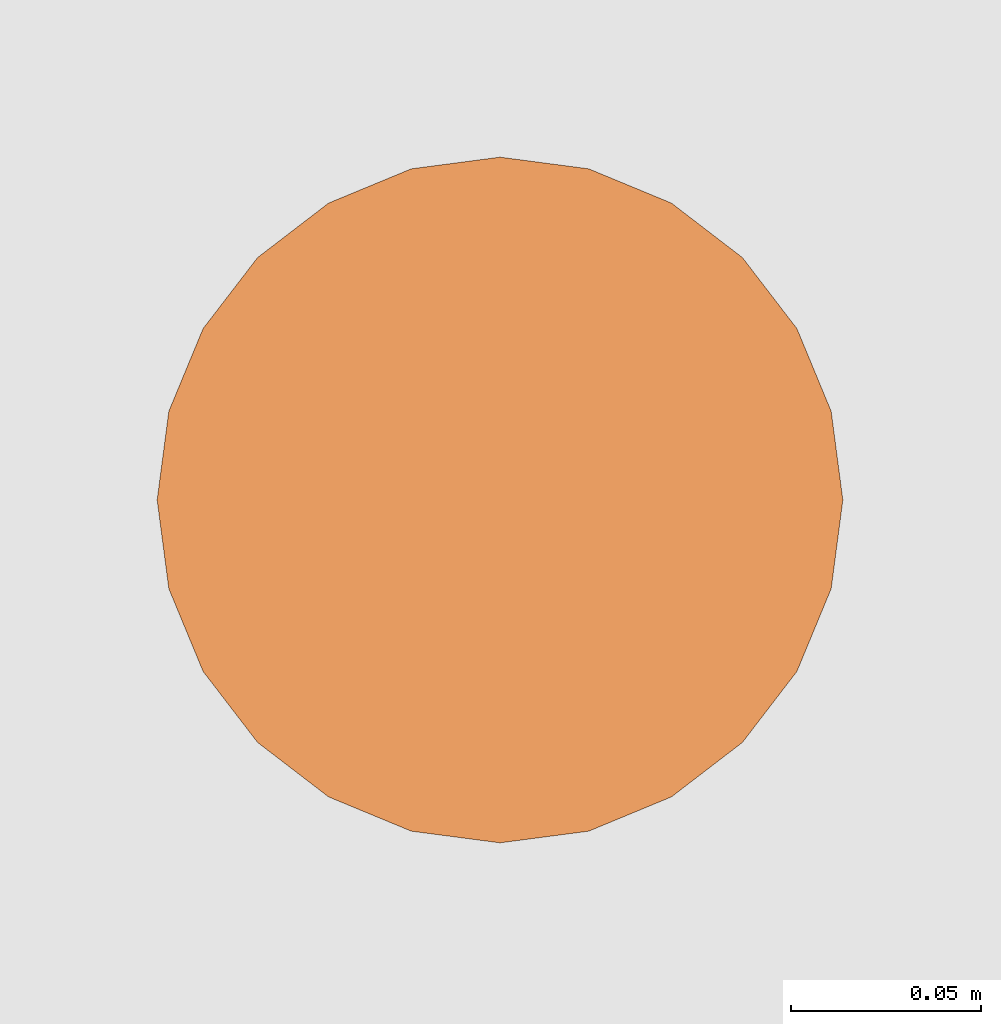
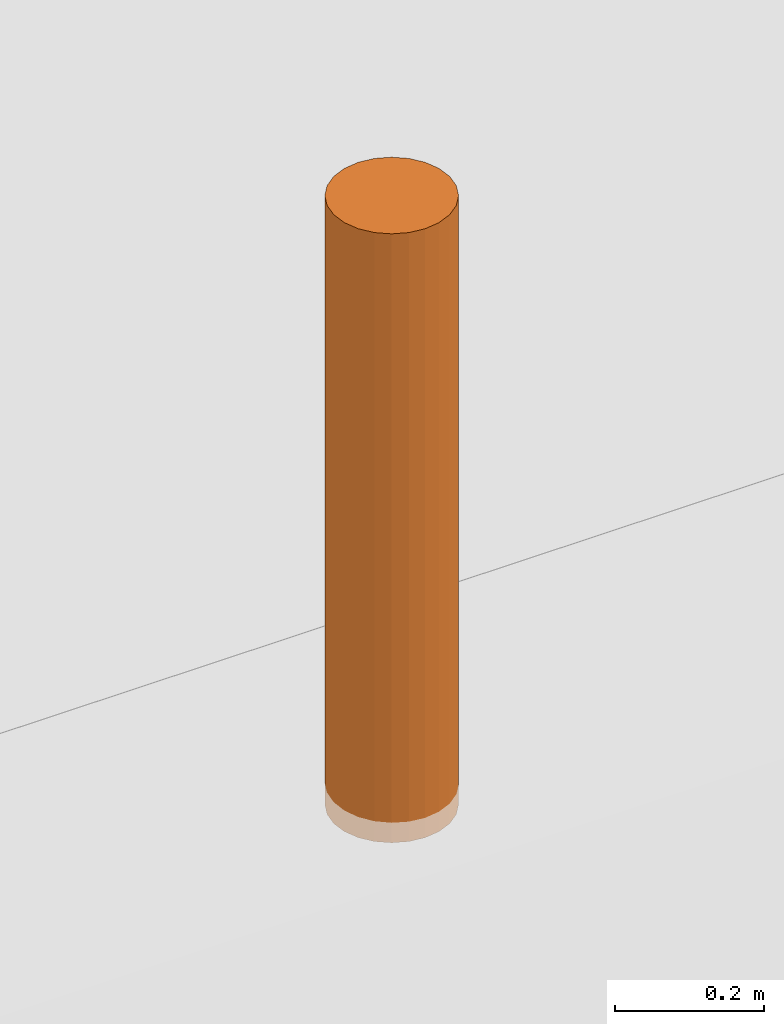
# One storey, part 214 of 246: 1 proxy.
"""IFC2X3 building model written with IfcOpenShell, lengths in millimetres."""

from ifc_helpers import new_model, entity, si_unit, converted_unit, derived_unit, money_unit, direction, frame, origin_with_axes, place, context, subcontext, project, spatial, faceted_brep, material, type_object, element, save


model = new_model("IFC2X3")

# Units and contexts
model_context = context("Model", 3, precision=0.01, world=origin_with_axes(), true_north=direction((0.0, 1.0)))
body_context = subcontext(model_context, "Body", "Model", "MODEL_VIEW")
ifc_project = project(units=[si_unit("LENGTHUNIT", "METRE", prefix="MILLI"), si_unit("AREAUNIT", "SQUARE_METRE"), si_unit("VOLUMEUNIT", "CUBIC_METRE"), converted_unit("PLANEANGLEUNIT", "DEGREE", entity("IfcPlaneAngleMeasure", 0.0174532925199), si_unit("PLANEANGLEUNIT", "RADIAN"), dimensions=[0, 0, 0, 0, 0, 0, 0]), si_unit("SOLIDANGLEUNIT", "STERADIAN"), money_unit("EUR"), converted_unit("TIMEUNIT", "Year", entity("IfcTimeMeasure", 31556926.0), si_unit("TIMEUNIT", "SECOND"), dimensions=[0, 0, 1, 0, 0, 0, 0]), si_unit("MASSUNIT", "GRAM", prefix="KILO"), si_unit("THERMODYNAMICTEMPERATUREUNIT", "DEGREE_CELSIUS"), si_unit("LUMINOUSINTENSITYUNIT", "LUMEN"), si_unit("ENERGYUNIT", "JOULE", prefix="MEGA"), derived_unit("THERMALCONDUCTANCEUNIT", [(si_unit("POWERUNIT", "WATT"), 1), (si_unit("LENGTHUNIT", "METRE"), -1), (si_unit("THERMODYNAMICTEMPERATUREUNIT", "KELVIN"), -1)]), derived_unit("SPECIFICHEATCAPACITYUNIT", [(si_unit("ENERGYUNIT", "JOULE"), 1), (si_unit("MASSUNIT", "GRAM", prefix="KILO"), -1), (si_unit("THERMODYNAMICTEMPERATUREUNIT", "KELVIN"), -1)]), derived_unit("MASSDENSITYUNIT", [(si_unit("MASSUNIT", "GRAM", prefix="KILO"), 1), (si_unit("VOLUMEUNIT", "CUBIC_METRE"), -1)])], contexts=[model_context])

# Site, building, storey
site_placement = place(None, origin_with_axes())
site = spatial("IfcSite", under=ifc_project, at=site_placement, Name="L.Koidula tn 11b", CompositionType="ELEMENT")
building_placement = place(site_placement, origin_with_axes())
building = spatial("IfcBuilding", under=site, at=building_placement, Name="Rakvere Riigigümnaasium", CompositionType="ELEMENT")
storey_placement = place(building_placement, origin_with_axes())
storey = spatial("IfcBuildingStorey", under=building, at=storey_placement, Name="1.korrus 0,00", CompositionType="ELEMENT", Elevation=0.0)

# Proxy
ifc_material = material(Name="Alumiinium (RAL 7026)")
building_element_proxy_type = type_object("IfcBuildingElementProxyType", Name="Alumiinium (RAL 7026) D180", PredefinedType="NOTDEFINED")
proxy_placement = place(storey_placement, frame((54143.0900237, 1486.45341722, -180.659317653), z_axis=(0.0, 0.0, 1.0), x_axis=(1.0, 0.0, 0.0)))
element("IfcBuildingElementProxy", 1, at=proxy_placement, inside=storey, type_object=building_element_proxy_type, material=ifc_material, Name="Pollar valgusti", context=body_context, shape_type="Brep", body=[
    faceted_brep([(-90.0, 0.0, 1000.0), (-90.0, 0.0, 0.0), (-86.933324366, -23.2937140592, 0.0), (-86.933324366, -23.2937140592, 1000.0), (-86.933324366, 23.2937140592, 1000.0), (-86.933324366, 23.2937140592, 0.0), (-77.9422863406, 45.0, 0.0), (-63.6396103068, 63.6396103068, 0.0), (-45.0, 77.9422863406, 0.0), (-23.2937140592, 86.933324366, 0.0), (0.0, 90.0, 0.0), (23.2937140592, 86.933324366, 0.0), (45.0, 77.9422863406, 0.0), (63.6396103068, 63.6396103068, 0.0), (77.9422863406, 45.0, 0.0), (86.933324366, 23.2937140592, 0.0), (90.0, 0.0, 0.0), (86.933324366, -23.2937140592, 0.0), (77.9422863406, -45.0, 0.0), (63.6396103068, -63.6396103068, 0.0), (45.0, -77.9422863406, 0.0), (23.2937140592, -86.933324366, 0.0), (0.0, -90.0, 0.0), (-23.2937140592, -86.933324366, 0.0), (-45.0, -77.9422863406, 0.0), (-63.6396103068, -63.6396103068, 0.0), (-77.9422863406, -45.0, 0.0), (-77.9422863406, -45.0, 1000.0), (-63.6396103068, -63.6396103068, 1000.0), (-45.0, -77.9422863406, 1000.0), (-23.2937140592, -86.933324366, 1000.0), (0.0, -90.0, 1000.0), (23.2937140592, -86.933324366, 1000.0), (45.0, -77.9422863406, 1000.0), (63.6396103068, -63.6396103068, 1000.0), (77.9422863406, -45.0, 1000.0), (86.933324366, -23.2937140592, 1000.0), (90.0, 0.0, 1000.0), (86.933324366, 23.2937140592, 1000.0), (77.9422863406, 45.0, 1000.0), (63.6396103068, 63.6396103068, 1000.0), (45.0, 77.9422863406, 1000.0), (23.2937140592, 86.933324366, 1000.0), (0.0, 90.0, 1000.0), (-23.2937140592, 86.933324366, 1000.0), (-45.0, 77.9422863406, 1000.0), (-63.6396103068, 63.6396103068, 1000.0), (-77.9422863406, 45.0, 1000.0)], [[[0, 1, 2, 3]], [[4, 5, 1, 0]], [[2, 1, 5, 6, 7, 8, 9, 10, 11, 12, 13, 14, 15, 16, 17, 18, 19, 20, 21, 22, 23, 24, 25, 26]], [[3, 2, 26, 27]], [[4, 0, 3, 27, 28, 29, 30, 31, 32, 33, 34, 35, 36, 37, 38, 39, 40, 41, 42, 43, 44, 45, 46, 47]], [[47, 6, 5, 4]], [[46, 7, 6, 47]], [[45, 8, 7, 46]], [[44, 9, 8, 45]], [[43, 10, 9, 44]], [[42, 11, 10, 43]], [[41, 12, 11, 42]], [[40, 13, 12, 41]], [[39, 14, 13, 40]], [[38, 15, 14, 39]], [[37, 16, 15, 38]], [[36, 17, 16, 37]], [[35, 18, 17, 36]], [[34, 19, 18, 35]], [[33, 20, 19, 34]], [[32, 21, 20, 33]], [[31, 22, 21, 32]], [[30, 23, 22, 31]], [[29, 24, 23, 30]], [[28, 25, 24, 29]], [[27, 26, 25, 28]]]),
])

save(model, "model.ifc")
